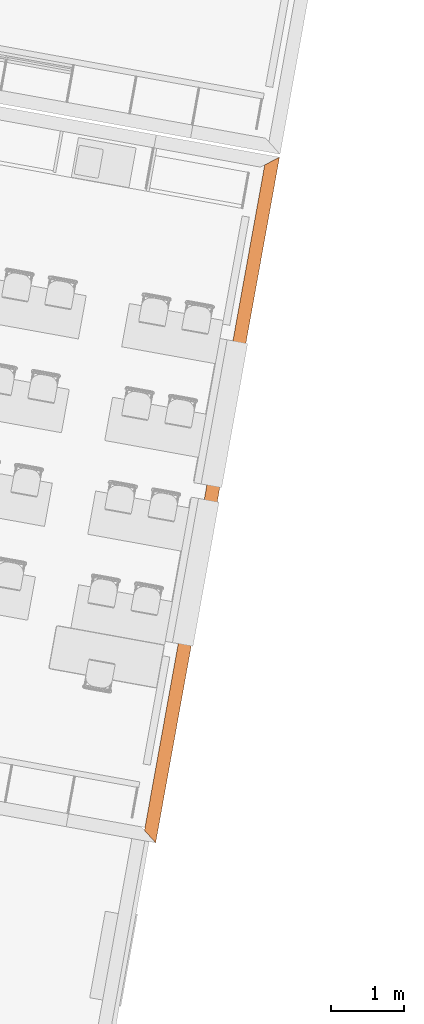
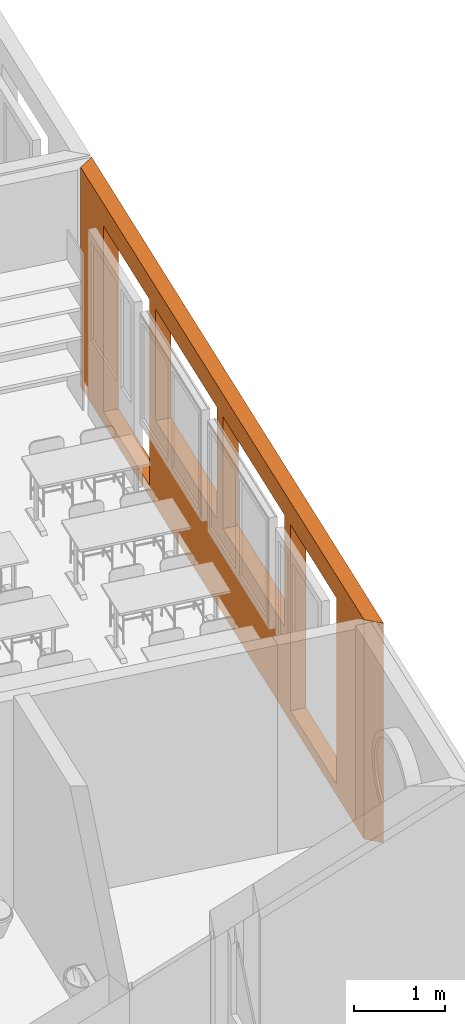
# One storey, part 64 of 79: 1 proxy.
"""IFC2X3 building model written with IfcOpenShell, lengths in metres."""

from ifc_helpers import new_model, entity, si_unit, converted_unit, derived_unit, money_unit, direction, frame, origin_with_axes, place, context, subcontext, project, spatial, polyline, outline, extrude, boolean, faceted_brep, material, type_object, element, save


model = new_model("IFC2X3")

# Units and contexts
model_context = context("Model", 3, precision=1e-05, world=origin_with_axes(), true_north=direction((0.0, 1.0)))
body_context = subcontext(model_context, "Body", "Model", "MODEL_VIEW")
ifc_project = project(units=[si_unit("LENGTHUNIT", "METRE"), si_unit("AREAUNIT", "SQUARE_METRE"), si_unit("VOLUMEUNIT", "CUBIC_METRE"), converted_unit("PLANEANGLEUNIT", "DEGREE", entity("IfcPlaneAngleMeasure", 0.0174532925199), si_unit("PLANEANGLEUNIT", "RADIAN"), dimensions=[0, 0, 0, 0, 0, 0, 0]), money_unit("CHF"), converted_unit("TIMEUNIT", "Year", entity("IfcTimeMeasure", 31556926.0), si_unit("TIMEUNIT", "SECOND"), dimensions=[0, 0, 1, 0, 0, 0, 0]), si_unit("MASSUNIT", "GRAM", prefix="KILO"), si_unit("THERMODYNAMICTEMPERATUREUNIT", "DEGREE_CELSIUS"), si_unit("LUMINOUSINTENSITYUNIT", "LUMEN"), si_unit("ENERGYUNIT", "JOULE", prefix="MEGA"), derived_unit("THERMALCONDUCTANCEUNIT", [(si_unit("POWERUNIT", "WATT"), 1), (si_unit("LENGTHUNIT", "METRE"), -1), (si_unit("THERMODYNAMICTEMPERATUREUNIT", "KELVIN"), -1)]), derived_unit("SPECIFICHEATCAPACITYUNIT", [(si_unit("ENERGYUNIT", "JOULE"), 1), (si_unit("MASSUNIT", "GRAM", prefix="KILO"), -1), (si_unit("THERMODYNAMICTEMPERATUREUNIT", "KELVIN"), -1)]), derived_unit("MASSDENSITYUNIT", [(si_unit("MASSUNIT", "GRAM", prefix="KILO"), 1), (si_unit("VOLUMEUNIT", "CUBIC_METRE"), -1)])], contexts=[model_context])

# Site, building, storey
site_placement = place(None, frame((0.0, 0.0, 0.0), z_axis=(0.0, 0.0, 1.0), x_axis=(-0.177771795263, -0.984071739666, 0.0)))
site = spatial("IfcSite", under=ifc_project, at=site_placement, Name="Site", CompositionType="ELEMENT")
building_placement = place(site_placement, origin_with_axes())
building = spatial("IfcBuilding", under=site, at=building_placement, Name="Bâtiment", CompositionType="ELEMENT")
storey_placement = place(building_placement, origin_with_axes())
storey = spatial("IfcBuildingStorey", under=building, at=storey_placement, Name="RDC", CompositionType="ELEMENT", Elevation=0.0)

# Proxy
ifc_material = material(Name="_BA banché RAL9007")
building_element_proxy_type = type_object("IfcBuildingElementProxyType", Name="_M ext 18 +18 gris 360", PredefinedType="NOTDEFINED")
proxy_placement = place(storey_placement, frame((138.014841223, -148.117150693, -0.15), z_axis=(0.0, 0.0, 1.0), x_axis=(-1.0, -7.39364379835e-08, 0.0)))
element("IfcBuildingElementProxy", 1, at=proxy_placement, inside=storey, type_object=building_element_proxy_type, material=ifc_material, Name="M ext-Est", context=body_context, shape_type="CSG", body=[
    boolean("DIFFERENCE", boolean("DIFFERENCE", boolean("DIFFERENCE", boolean("DIFFERENCE", extrude(outline(polyline([(0.0, 0.0), (9.51, 0.0), (9.37000001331, 0.18), (0.140000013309, 0.18), (0.0, 0.0)])), origin_with_axes(), (0.0, 0.0, 1.0), 2.95), faceted_brep([(8.63000001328, 0.18, 0.15), (7.13000001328, 0.18, 0.15), (7.13000001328, 0.18, 2.65), (8.63000001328, 0.18, 2.65), (8.62999999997, 0.0, 0.15), (7.12999999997, 0.0, 0.15), (7.12999999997, 0.0, 2.65), (8.62999999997, 0.0, 2.65)], [[[0, 1, 2, 3]], [[4, 5, 1, 0]], [[5, 6, 2, 1]], [[6, 7, 3, 2]], [[7, 4, 0, 3]], [[4, 7, 6, 5]]])), faceted_brep([(6.93000001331, 0.18, 1.15), (4.93000001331, 0.18, 1.15), (4.93000001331, 0.18, 2.65), (6.93000001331, 0.18, 2.65), (6.93, 0.0, 1.15), (4.93, 0.0, 1.15), (4.93, 0.0, 2.65), (6.93, 0.0, 2.65)], [[[0, 1, 2, 3]], [[4, 5, 1, 0]], [[5, 6, 2, 1]], [[6, 7, 3, 2]], [[7, 4, 0, 3]], [[4, 7, 6, 5]]])), faceted_brep([(4.73000001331, 0.18, 1.15), (2.73000001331, 0.18, 1.15), (2.73000001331, 0.18, 2.65), (4.73000001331, 0.18, 2.65), (4.73, 0.0, 1.15), (2.73, 0.0, 1.15), (2.73, 0.0, 2.65), (4.73, 0.0, 2.65)], [[[0, 1, 2, 3]], [[4, 5, 1, 0]], [[5, 6, 2, 1]], [[6, 7, 3, 2]], [[7, 4, 0, 3]], [[4, 7, 6, 5]]])), faceted_brep([(2.53000001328, 0.18, 0.15), (1.03000001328, 0.18, 0.15), (1.03000001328, 0.18, 2.65), (2.53000001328, 0.18, 2.65), (2.52999999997, 0.0, 0.15), (1.02999999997, 0.0, 0.15), (1.02999999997, 0.0, 2.65), (2.52999999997, 0.0, 2.65)], [[[0, 1, 2, 3]], [[4, 5, 1, 0]], [[5, 6, 2, 1]], [[6, 7, 3, 2]], [[7, 4, 0, 3]], [[4, 7, 6, 5]]])),
])

save(model, "model.ifc")
